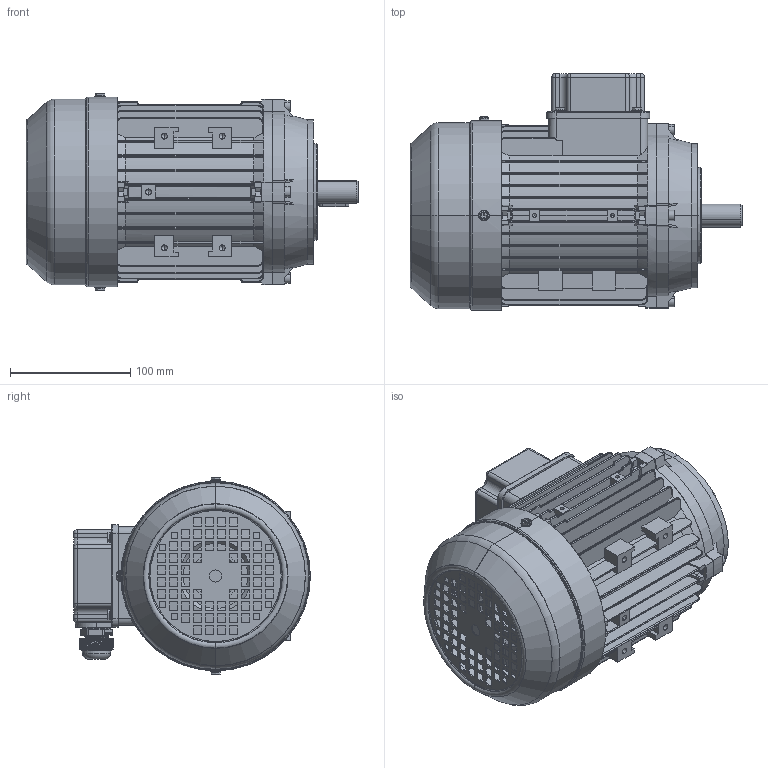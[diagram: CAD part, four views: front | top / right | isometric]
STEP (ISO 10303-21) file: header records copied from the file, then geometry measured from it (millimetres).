
FILE_DESCRIPTION (( 'STEP AP203' ), '1' );
FILE_NAME ('MSL80 assembly B14.STEP', '2017-11-26T09:40:53', ( 'user' ), ( 'china' ), 'SwSTEP 2.0', 'SolidWorks 2016', '' );
FILE_SCHEMA (( 'CONFIG_CONTROL_DESIGN' ));
Length unit declared in the file: millimetre
Products named in the file (13): M80傷裔B3_Post; M80傷裔B14; M20 cable gland; MSL80-90堤盄碟蚾饜; GB-T 70.1-2000 M5_20; M80瑞欶_076; GB-T 5780-2000 M5_020; MSL80 assembly B14; MS80 綴裔瑞欶郪磁; M80-Shaft drive end; MSL80-90堤盄碟_MSL80-90; MSL80-儂褲; GB-T 29.2-1988 M4鞠褒坋趼湍菜_05
Assembly tree (24 placements, depth 3):
  MSL80 assembly B14
    MSL80-儂褲
    MS80 綴裔瑞欶郪磁
      M80傷裔B3_Post
      M80瑞欶_076
      GB-T 29.2-1988 M4鞠褒坋趼湍菜_05  x3
    MSL80-90堤盄碟蚾饜
      MSL80-90堤盄碟_MSL80-90
      GB-T 29.2-1988 M4鞠褒坋趼湍菜_05  x4
      M20 cable gland
    GB-T 70.1-2000 M5_20  x4
    GB-T 5780-2000 M5_020  x4
    M80-Shaft drive end
    M80傷裔B14
Bounding box: 276 x 196.8 x 164.4 mm (x, y, z)
Volume: 637591.9 mm3; surface area: 498650.3 mm2
Topology: 22 solids, 22 shells, 3072 faces, 7896 edges, 4899 vertices
Faces by surface type: plane 1408, cylinder 975, bspline 236, cone 227, torus 218, sphere 8
Entity records: 107198 total; most frequent: CARTESIAN_POINT 41826, ORIENTED_EDGE 13972, DIRECTION 12481, EDGE_CURVE 6986, VERTEX_POINT 4422, AXIS2_PLACEMENT_3D 4401, LINE 3679, VECTOR 3679
